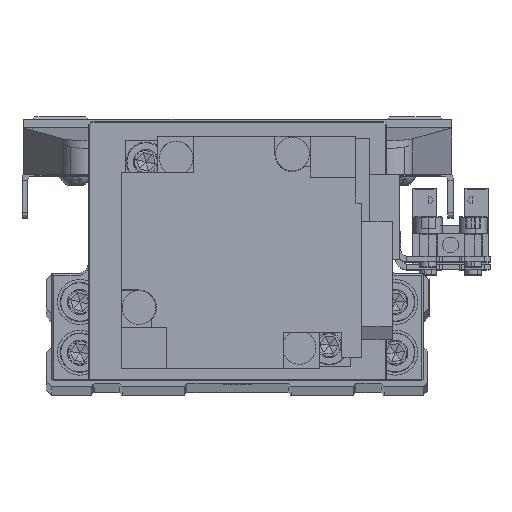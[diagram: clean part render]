
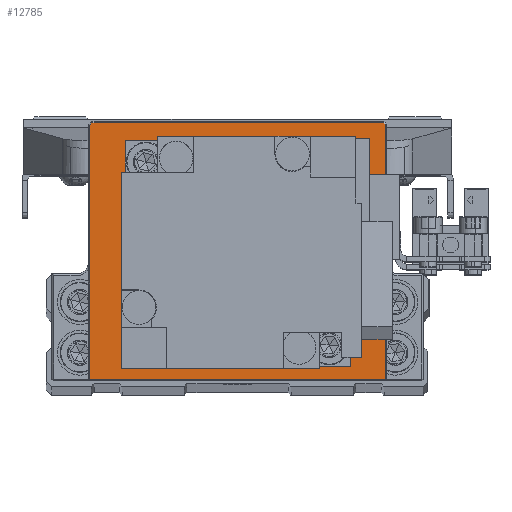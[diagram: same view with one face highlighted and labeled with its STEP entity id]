
A CAD part, top view. The second image highlights one B-rep face of the part: STEP entity #12785.
In plain terms, the highlighted planar face has unit normal (0, 0, 1) as drawn and (0, -1, 0) by its records, which use the part's own axes.
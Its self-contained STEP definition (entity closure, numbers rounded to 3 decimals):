
#29 = LINE ( 'NONE', #12862, #10514 ) ;
#2305 = FACE_OUTER_BOUND ( 'NONE', #5661, .T. ) ;
#2844 = DIRECTION ( 'NONE',  ( 0., 0., -1. ) ) ;
#3049 = EDGE_CURVE ( 'NONE', #28535, #38804, #3574, .T. ) ;
#3574 = LINE ( 'NONE', #16422, #41264 ) ;
#4646 = CARTESIAN_POINT ( 'NONE',  ( -26.3, -4., -22.8 ) ) ;
#4851 = CARTESIAN_POINT ( 'NONE',  ( -25.5, -4., 22.8 ) ) ;
#5096 = EDGE_CURVE ( 'NONE', #38804, #16865, #17145, .T. ) ;
#5601 = DIRECTION ( 'NONE',  ( 0., -1., 0. ) ) ;
#5661 = EDGE_LOOP ( 'NONE', ( #38956, #21066, #29238, #28827, #27194, #9427 ) ) ;
#7351 = CARTESIAN_POINT ( 'NONE',  ( -26.3, -4., 22. ) ) ;
#7400 = AXIS2_PLACEMENT_3D ( 'NONE', #28176, #40984, #12182 ) ;
#8726 = VECTOR ( 'NONE', #17692, 1000. ) ;
#9427 = ORIENTED_EDGE ( 'NONE', *, *, #35186, .T. ) ;
#9947 = VERTEX_POINT ( 'NONE', #13752 ) ;
#10514 = VECTOR ( 'NONE', #25690, 1000. ) ;
#11988 = DIRECTION ( 'NONE',  ( 0., 0., -1. ) ) ;
#12182 = DIRECTION ( 'NONE',  ( 0., 0., -1. ) ) ;
#12785 = ADVANCED_FACE ( 'NONE', ( #2305 ), #15154, .T. ) ;
#12862 = CARTESIAN_POINT ( 'NONE',  ( 26.5, -4., -22.8 ) ) ;
#13752 = CARTESIAN_POINT ( 'NONE',  ( -25.5, -4., 22.8 ) ) ;
#14420 = VERTEX_POINT ( 'NONE', #4646 ) ;
#15154 = PLANE ( 'NONE',  #17269 ) ;
#16422 = CARTESIAN_POINT ( 'NONE',  ( 26.3, -4., 22. ) ) ;
#16865 = VERTEX_POINT ( 'NONE', #26871 ) ;
#17145 = CIRCLE ( 'NONE', #40622, 0.8 ) ;
#17269 = AXIS2_PLACEMENT_3D ( 'NONE', #27983, #40784, #11988 ) ;
#17692 = DIRECTION ( 'NONE',  ( -1., 0., 0. ) ) ;
#18252 = EDGE_CURVE ( 'NONE', #9947, #39085, #25551, .T. ) ;
#18438 = DIRECTION ( 'NONE',  ( 0., 0., -1. ) ) ;
#18837 = LINE ( 'NONE', #31664, #38087 ) ;
#19340 = EDGE_CURVE ( 'NONE', #16865, #9947, #33672, .T. ) ;
#21066 = ORIENTED_EDGE ( 'NONE', *, *, #3049, .T. ) ;
#25551 = CIRCLE ( 'NONE', #7400, 0.8 ) ;
#25690 = DIRECTION ( 'NONE',  ( 1., 0., 0. ) ) ;
#26871 = CARTESIAN_POINT ( 'NONE',  ( 25.5, -4., 22.8 ) ) ;
#27194 = ORIENTED_EDGE ( 'NONE', *, *, #18252, .T. ) ;
#27594 = CARTESIAN_POINT ( 'NONE',  ( 26.3, -4., 22. ) ) ;
#27983 = CARTESIAN_POINT ( 'NONE',  ( 0., -4., 0. ) ) ;
#28176 = CARTESIAN_POINT ( 'NONE',  ( -25.5, -4., 22. ) ) ;
#28535 = VERTEX_POINT ( 'NONE', #31868 ) ;
#28827 = ORIENTED_EDGE ( 'NONE', *, *, #19340, .T. ) ;
#29238 = ORIENTED_EDGE ( 'NONE', *, *, #5096, .T. ) ;
#29244 = DIRECTION ( 'NONE',  ( 0., 0., 1. ) ) ;
#31664 = CARTESIAN_POINT ( 'NONE',  ( -26.3, -4., -23. ) ) ;
#31868 = CARTESIAN_POINT ( 'NONE',  ( 26.3, -4., -22.8 ) ) ;
#33672 = LINE ( 'NONE', #4851, #8726 ) ;
#34414 = CARTESIAN_POINT ( 'NONE',  ( 25.5, -4., 22. ) ) ;
#35186 = EDGE_CURVE ( 'NONE', #39085, #14420, #18837, .T. ) ;
#38087 = VECTOR ( 'NONE', #2844, 1000. ) ;
#38804 = VERTEX_POINT ( 'NONE', #27594 ) ;
#38956 = ORIENTED_EDGE ( 'NONE', *, *, #41415, .T. ) ;
#39085 = VERTEX_POINT ( 'NONE', #7351 ) ;
#40622 = AXIS2_PLACEMENT_3D ( 'NONE', #34414, #5601, #18438 ) ;
#40784 = DIRECTION ( 'NONE',  ( 0., -1., 0. ) ) ;
#40984 = DIRECTION ( 'NONE',  ( 0., -1., 0. ) ) ;
#41264 = VECTOR ( 'NONE', #29244, 1000. ) ;
#41415 = EDGE_CURVE ( 'NONE', #14420, #28535, #29, .T. ) ;
